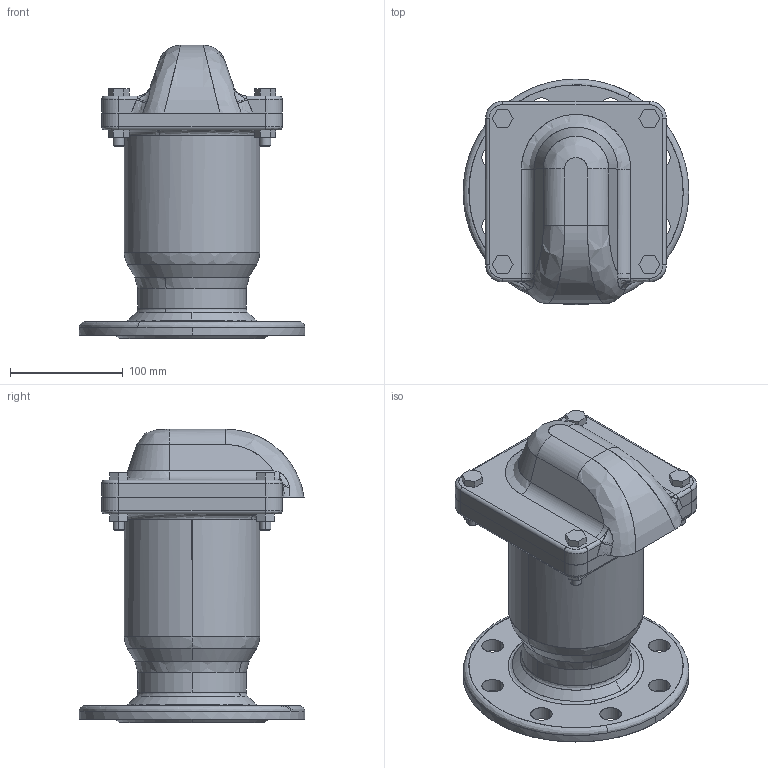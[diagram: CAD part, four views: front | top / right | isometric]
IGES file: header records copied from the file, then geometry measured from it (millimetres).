
Start section: SolidWorks IGES file using analytic representation for surfaces
Global section: file name: C:\Users\Administrator\Desktop\temp\0.IGS; native system: SolidWorks 2015; preprocessor: SolidWorks 2015; author: Administrator; date: 170528.100657; units: millimetre
Bounding box: 200 x 200 x 260 mm (x, y, z)
Surface area: 496305 mm2 (no closed solid volume)
Topology: 0 solids, 0 shells, 307 faces, 4779 edges, 4767 vertices
Faces by surface type: bspline 186, revolution 121
